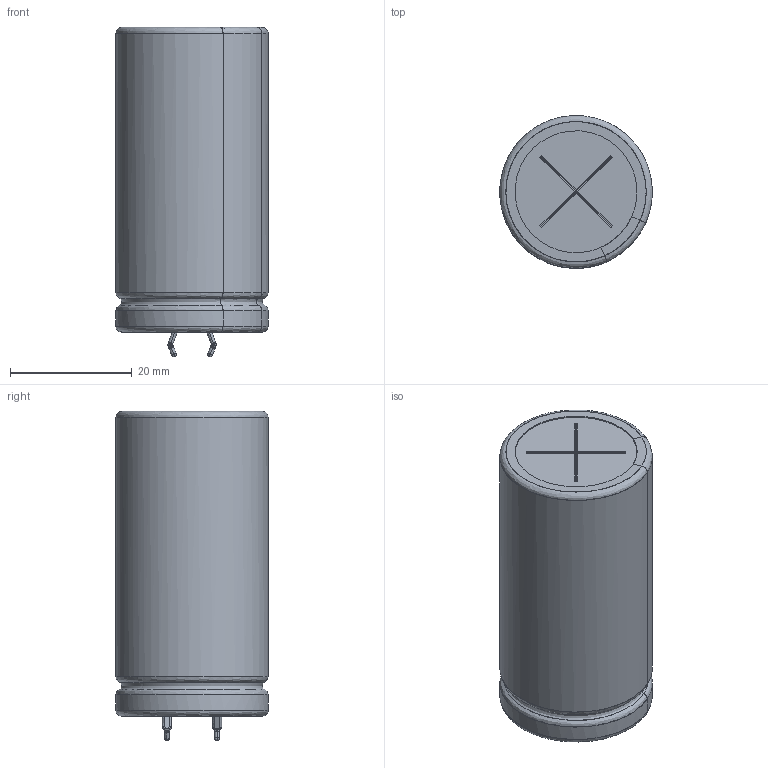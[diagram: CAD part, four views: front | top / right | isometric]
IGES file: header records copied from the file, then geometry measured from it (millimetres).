
Start section: JAMA-IS VERSION  1.0
Bounding box: 24.98 x 24.98 x 54.02 mm (x, y, z)
Surface area: 13466.4 mm2 (no closed solid volume)
Topology: 0 solids, 0 shells, 208 faces, 2226 edges, 2190 vertices
Faces by surface type: bspline 208
